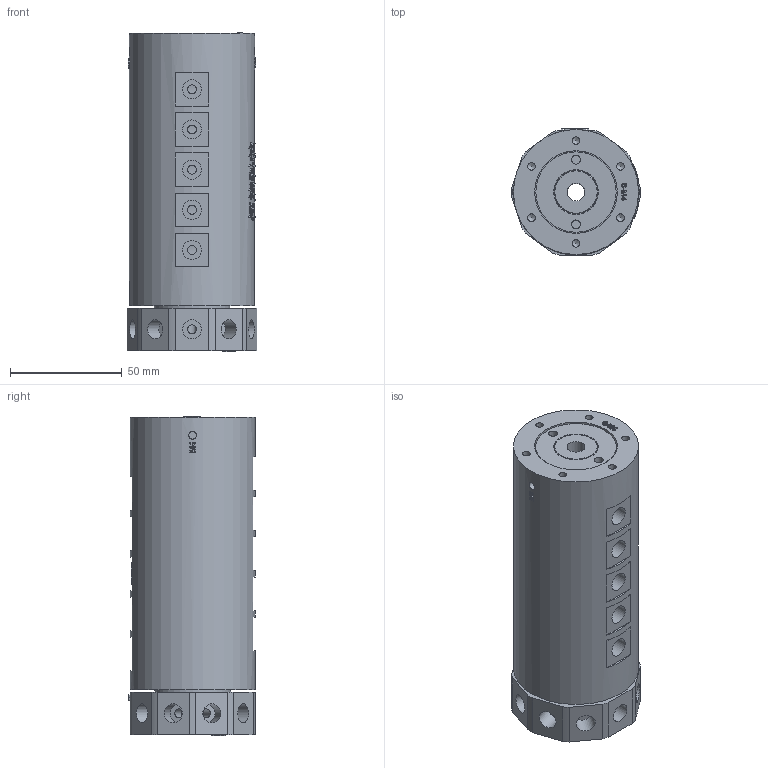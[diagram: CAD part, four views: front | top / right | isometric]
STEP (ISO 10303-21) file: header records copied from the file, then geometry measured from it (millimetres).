
FILE_DESCRIPTION(/* description */ (''),/* implementation_level */ '2;1');
FILE_NAME(/* name */ 'HQ1001.stp',/* time_stamp */ '2025-02-14T11:15:01+08:00',/* author */ (''),/* organization */ (''),/* preprocessor_version */ 'ST-DEVELOPER v16.7',/* originating_system */ 'SIEMENS PLM Software NX 12.0',/* authorisation */ '');
FILE_SCHEMA (('AUTOMOTIVE_DESIGN { 1 0 10303 214 3 1 1 1 }'));
Products named in the file (1): HX0540E8A2D8nfrb
Bounding box: 57.99 x 56.5 x 143 mm (x, y, z)
Volume: 325058.6 mm3; surface area: 51818.5 mm2
Topology: 1 solids, 2 shells, 1225 faces, 3234 edges, 2181 vertices
Faces by surface type: plane 514, extrusion 514, cylinder 128, bspline 56, cone 13
Full cylindrical faces by diameter (mm): 3.4 x12, 4 x32, 4.1 x10, 4.2 x10, 8 x1, 8.5 x20, 18 x1, 19 x1, 29 x1, 34 x1, 36 x1, 37 x1, 56 x1
Entity records: 44988 total; most frequent: CARTESIAN_POINT 19470, ORIENTED_EDGE 6088, DIRECTION 3128, EDGE_CURVE 3044, B_SPLINE_CURVE_WITH_KNOTS 2643, VERTEX_POINT 2112, EDGE_LOOP 1502, ADVANCED_FACE 1222
